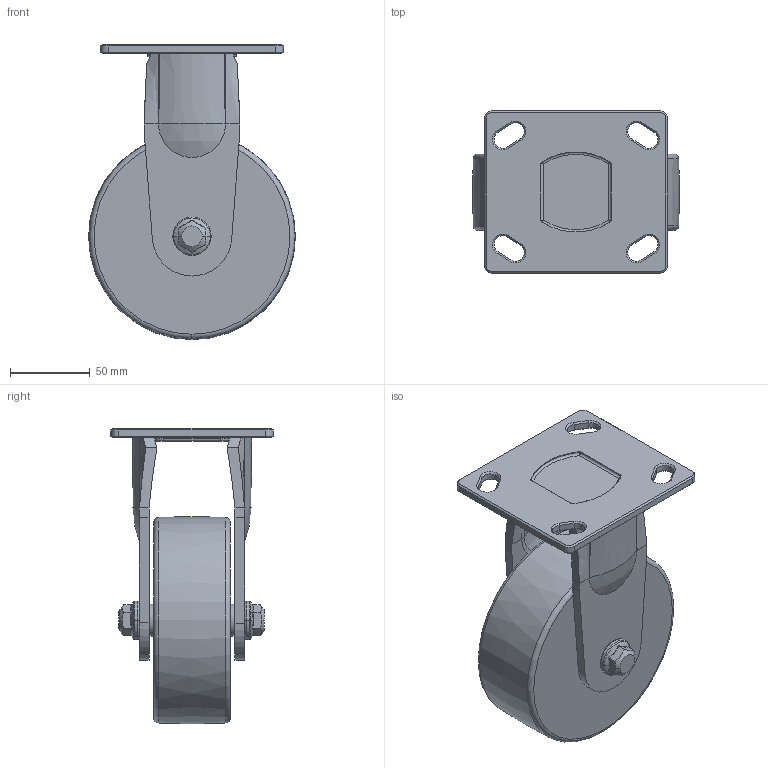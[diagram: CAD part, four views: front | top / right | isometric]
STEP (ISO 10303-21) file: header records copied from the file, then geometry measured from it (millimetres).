
FILE_DESCRIPTION((''),'2;1');
FILE_NAME('GH-130-ARF-MCD.stp','2013-04-30T16:13:14',(''),(''),'Mechanical Desktop 2009','Mechanical Desktop 2009',', , ');
FILE_SCHEMA(('CONFIG_CONTROL_DESIGN'));
Length unit declared in the file: millimetre
Products named in the file (2): GH-130-ARF-MCD; RF-PLATE
Assembly tree (1 placements, depth 2):
  GH-130-ARF-MCD
    RF-PLATE
Bounding box: 130 x 102 x 185.45 mm (x, y, z)
Volume: 799424.1 mm3; surface area: 104429.3 mm2
Topology: 1 solids, 1 shells, 241 faces, 562 edges, 334 vertices
Faces by surface type: plane 83, bspline 50, cylinder 44, cone 42, torus 18, sphere 4
Entity records: 8995 total; most frequent: CARTESIAN_POINT 3679, ORIENTED_EDGE 1116, DIRECTION 1022, EDGE_CURVE 558, AXIS2_PLACEMENT_3D 395, VERTEX_POINT 334, EDGE_LOOP 266, FACE_OUTER_BOUND 241
